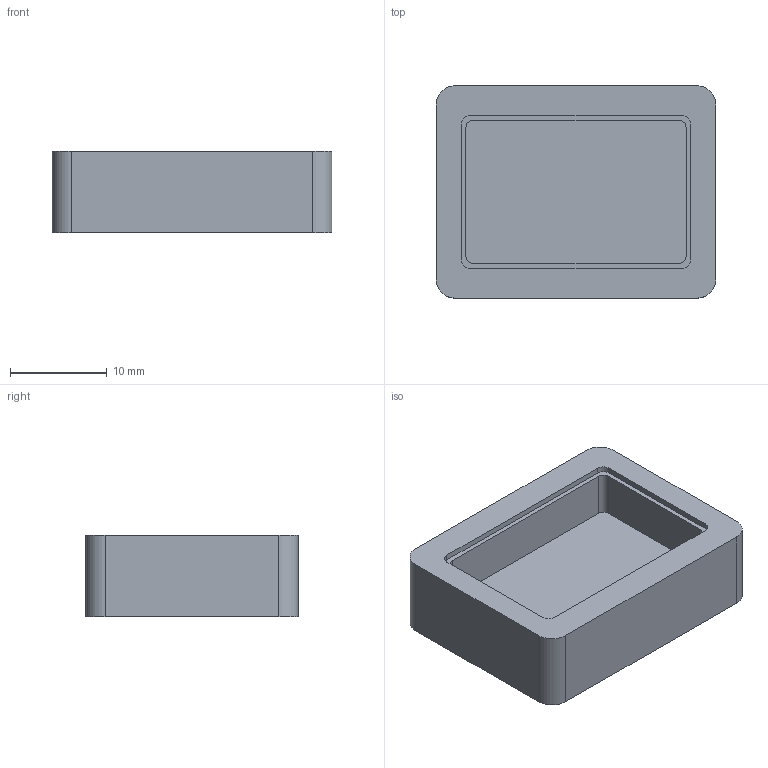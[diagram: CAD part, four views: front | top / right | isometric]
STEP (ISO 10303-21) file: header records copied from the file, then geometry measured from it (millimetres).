
FILE_DESCRIPTION(('Open CASCADE Model'),'2;1');
FILE_NAME('Open CASCADE Shape Model','2026-09-28T14:43:50',('Author'),( 'Open CASCADE'),'Open CASCADE STEP processor 7.8','Open CASCADE 7.8' ,'Unknown');
FILE_SCHEMA(('AUTOMOTIVE_DESIGN { 1 0 10303 214 1 1 1 1 }'));
Length unit declared in the file: millimetre
Products named in the file (1): Open CASCADE STEP translator 7.8 6
Bounding box: 29 x 22 x 8.4 mm (x, y, z)
Volume: 3521.2 mm3; surface area: 2491.5 mm2
Topology: 1 solids, 1 shells, 28 faces, 72 edges, 48 vertices
Faces by surface type: plane 16, cylinder 12
Entity records: 1802 total; most frequent: CARTESIAN_POINT 333, DIRECTION 278, LINE 152, VECTOR 152, ORIENTED_EDGE 144, PCURVE 144, DEFINITIONAL_REPRESENTATION 144, EDGE_CURVE 72
